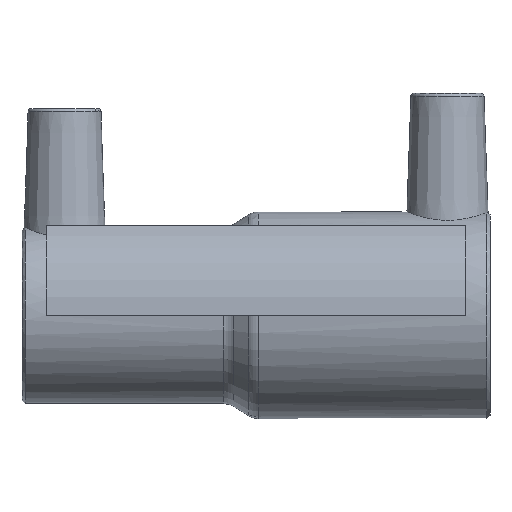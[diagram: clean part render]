
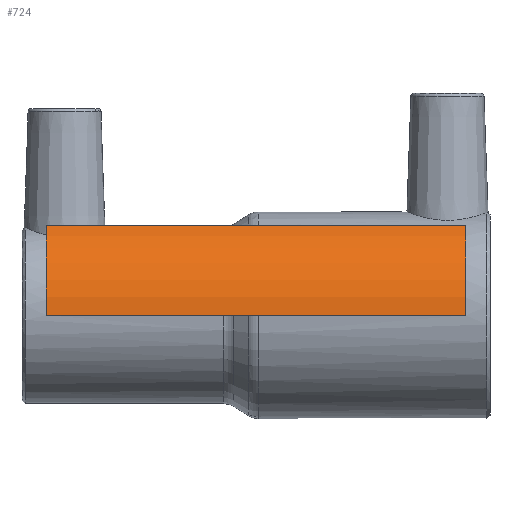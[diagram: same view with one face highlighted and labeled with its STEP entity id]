
A CAD part, front view. The second image highlights one B-rep face of the part: STEP entity #724.
In plain terms, the highlighted cylindrical face has radius 17.1 mm (diameter 34.2 mm), a partial arc.
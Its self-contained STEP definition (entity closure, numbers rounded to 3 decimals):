
#82=LINE('',#1321,#118);
#86=LINE('',#1329,#122);
#118=VECTOR('',#1048,1000.);
#122=VECTOR('',#1054,1000.);
#169=CIRCLE('',#832,17.1);
#170=CIRCLE('',#833,17.1);
#341=ORIENTED_EDGE('',*,*,#440,.T.);
#342=ORIENTED_EDGE('',*,*,#442,.F.);
#343=ORIENTED_EDGE('',*,*,#436,.F.);
#344=ORIENTED_EDGE('',*,*,#443,.T.);
#436=EDGE_CURVE('',#505,#506,#82,.T.);
#440=EDGE_CURVE('',#508,#507,#86,.T.);
#442=EDGE_CURVE('',#506,#507,#169,.T.);
#443=EDGE_CURVE('',#505,#508,#170,.T.);
#505=VERTEX_POINT('',#1322);
#506=VERTEX_POINT('',#1323);
#507=VERTEX_POINT('',#1328);
#508=VERTEX_POINT('',#1330);
#586=EDGE_LOOP('',(#341,#342,#343,#344));
#658=FACE_BOUND('',#586,.T.);
#677=CYLINDRICAL_SURFACE('',#831,17.1);
#724=ADVANCED_FACE('',(#658),#677,.T.);
#831=AXIS2_PLACEMENT_3D('',#1332,#1056,#1057);
#832=AXIS2_PLACEMENT_3D('',#1333,#1058,#1059);
#833=AXIS2_PLACEMENT_3D('',#1334,#1060,#1061);
#1048=DIRECTION('',(-1.,0.,0.));
#1054=DIRECTION('',(-1.,0.,0.));
#1056=DIRECTION('',(-1.,0.,0.));
#1057=DIRECTION('',(0.,0.,1.));
#1058=DIRECTION('',(-1.,0.,0.));
#1059=DIRECTION('',(0.,-1.,0.));
#1060=DIRECTION('',(-1.,0.,0.));
#1061=DIRECTION('',(0.,-1.,0.));
#1321=CARTESIAN_POINT('',(35.,-17.1,0.));
#1322=CARTESIAN_POINT('',(35.,-17.1,0.));
#1323=CARTESIAN_POINT('',(-34.,-17.1,0.));
#1328=CARTESIAN_POINT('',(-34.,-8.55,14.809));
#1329=CARTESIAN_POINT('',(35.,-8.55,14.809));
#1330=CARTESIAN_POINT('',(35.,-8.55,14.809));
#1332=CARTESIAN_POINT('',(35.,0.,0.));
#1333=CARTESIAN_POINT('',(-34.,0.,0.));
#1334=CARTESIAN_POINT('',(35.,0.,0.));
